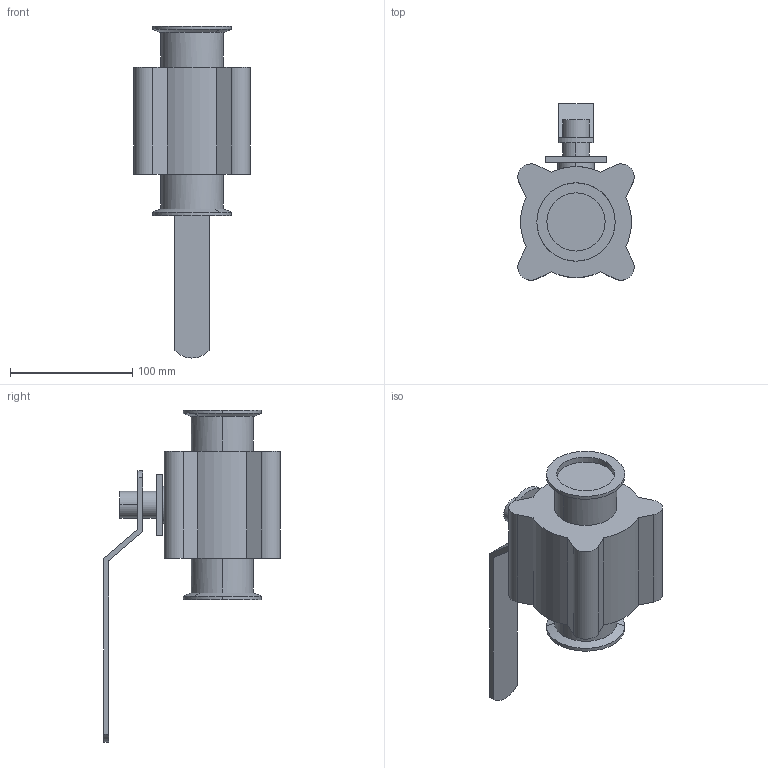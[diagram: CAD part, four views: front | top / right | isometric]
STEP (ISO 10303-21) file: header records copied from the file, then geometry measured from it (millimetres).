
FILE_DESCRIPTION(('Creo Elements/Direct Modeling STEP Export'),'2;1');
FILE_NAME('BLV1-2T-H-12CL.stp','2019-05-10T 8:18:27',(''),(''),'Creo Elements/Direct Modeling STEP processor for AP214 (Solid Model)','Creo Elements/Direct Modeling 19.0F 14-Feb-2017 (C) Parametric Technology GmbH','');
FILE_SCHEMA(('AUTOMOTIVE_DESIGN { 1 0 10303 214 1 1 1 1 }'));
Length unit declared in the file: millimetre
Products named in the file (2): BLV1-2T-H-12CL
Assembly tree (1 placements, depth 2):
  BLV1-2T-H-12CL
    BLV1-2T-H-12CL
Bounding box: 95.12 x 144.56 x 271.5 mm (x, y, z)
Volume: 876246.2 mm3; surface area: 86835.8 mm2
Topology: 1 solids, 1 shells, 61 faces, 151 edges, 101 vertices
Faces by surface type: plane 29, cylinder 28, cone 4
Entity records: 1822 total; most frequent: CARTESIAN_POINT 364, ORIENTED_EDGE 302, DIRECTION 286, EDGE_CURVE 151, VERTEX_POINT 101, AXIS2_PLACEMENT_3D 100, VECTOR 86, LINE 86
